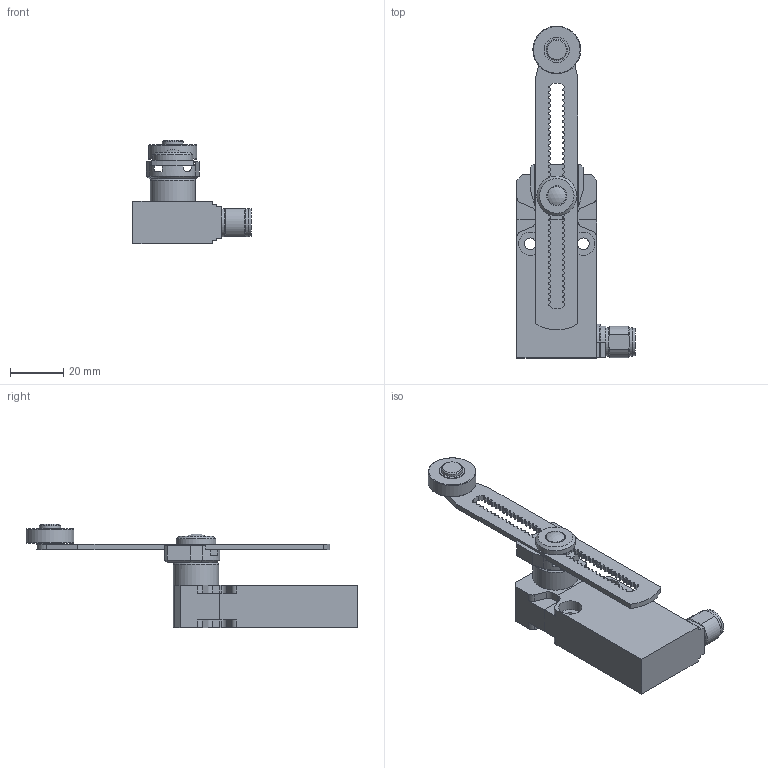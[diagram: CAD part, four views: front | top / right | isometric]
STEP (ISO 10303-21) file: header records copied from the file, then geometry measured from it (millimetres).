
FILE_DESCRIPTION(/* description */ (''),/* implementation_level */ '2;1');
FILE_NAME(/* name */ 'C:\Users\servizio.tecnico\Desktop\CADENAS\3D\EP1_STP\STP_EP1_G5100M.stp',/* time_stamp */ '2017-09-04T11:59:22+02:00',/* author */ ('servizio.tecnico'),/* organization */ (''),/* preprocessor_version */ 'ST-DEVELOPER v16.1',/* originating_system */ 'Autodesk Inventor 2016',/* authorisation */ '');
FILE_SCHEMA (('AUTOMOTIVE_DESIGN { 1 0 10303 214 3 1 1 }'));
Length unit declared in the file: millimetre
Products named in the file (3): Product; EP1G5100-M; BASE ASSI 
Assembly tree (2 placements, depth 3):
  BASE ASSI 
    EP1G5100-M
      Product
Bounding box: 44.5 x 125 x 39.1 mm (x, y, z)
Volume: 40000.2 mm3; surface area: 16113 mm2
Topology: 5 solids, 5 shells, 522 faces, 1463 edges, 969 vertices
Faces by surface type: plane 284, cylinder 226, cone 7, torus 4, sphere 1
Full cylindrical faces by diameter (mm): 4.4 x2, 6 x2, 7 x1, 7.6 x1, 8 x1, 8.7 x4, 9.5 x2, 10.3 x1, 10.6 x2, 11 x1, 15 x1, 17 x1, 18 x1
Entity records: 16891 total; most frequent: CARTESIAN_POINT 2963, DIRECTION 2946, ORIENTED_EDGE 2870, EDGE_CURVE 1435, AXIS2_PLACEMENT_3D 993, VERTEX_POINT 966, LINE 960, VECTOR 960
